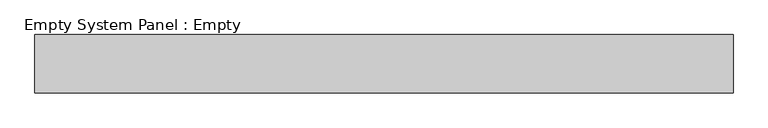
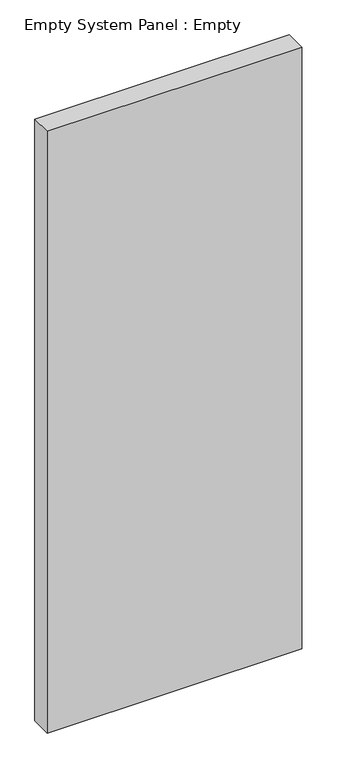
"""IFC4 building model written with IfcOpenShell, lengths in millimetres: plate geometry, Empty System Panel : Empty."""

from ifc_helpers import new_model, si_unit, origin, origin_with_axes, place, context, project, spatial, polyline, outline, extrude, source, transform, mapped, element, save


def empty_system_panel_empty_5195cd12(model_context):
    return source(origin(), model_context, "Body", "SweptSolid", [
        extrude(outline(polyline([(600.0000001, -150.0), (-600.0000001, -150.0), (-600.0000001, -50.0), (600.0000001, -50.0), (600.0000001, -150.0)])), origin_with_axes(), (0.0, 0.0, 1.0), 3000.0),
    ])


if __name__ == "__main__":
    model = new_model("IFC4")
    model_context = context("Model", 3, world=origin())
    ifc_project = project(units=[si_unit("LENGTHUNIT", "METRE", prefix="MILLI")], contexts=[model_context])
    site = spatial("IfcSite", under=ifc_project)
    building = spatial("IfcBuilding", under=site)
    placement = place(None, origin())
    empty_system_panel_empty_shape = empty_system_panel_empty_5195cd12(model_context)
    element("IfcPlate", 1, ObjectType="Empty System Panel : Empty", at=placement, inside=building, context=model_context, shape_type="MappedRepresentation", body=[
        mapped(empty_system_panel_empty_shape, transform((0.0, 0.0, 0.0), x_axis=(1.0, 0.0, 0.0), y_axis=(0.0, 1.0, 0.0), z_axis=(0.0, 0.0, 1.0))),
    ])
    save(model, "model.ifc")
